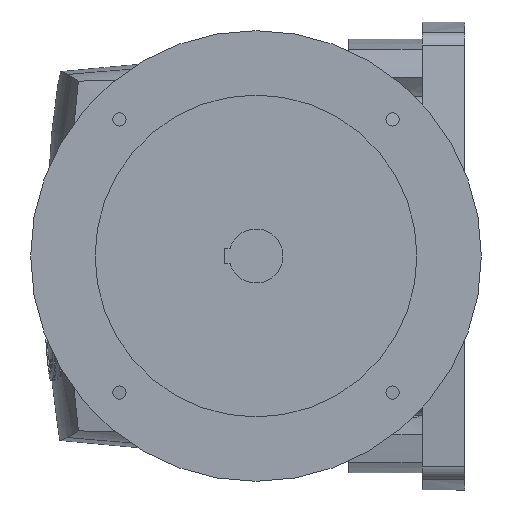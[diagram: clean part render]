
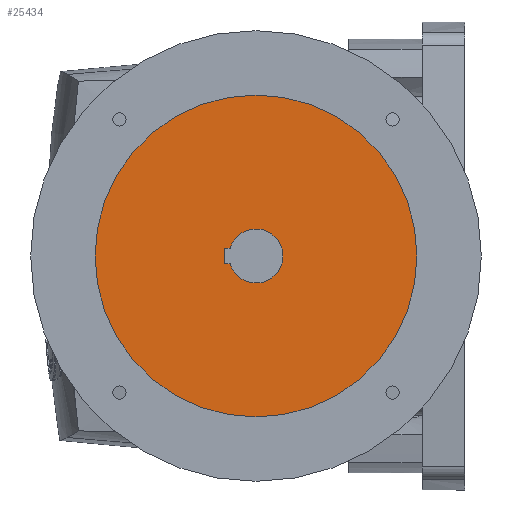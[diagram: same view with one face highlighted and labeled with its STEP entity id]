
A CAD part, left-side view. The second image highlights one B-rep face of the part: STEP entity #25434.
In plain terms, the highlighted planar face has unit normal (-1, 0, 0).
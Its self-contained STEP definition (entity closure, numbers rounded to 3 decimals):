
#6787=CARTESIAN_POINT('',(-232.,162.,0.));
#6788=DIRECTION('',(-1.,0.,0.));
#6789=DIRECTION('',(0.,1.,0.));
#6790=AXIS2_PLACEMENT_3D('',#6787,#6788,#6789);
#6800=CARTESIAN_POINT('',(-232.,162.,0.));
#6801=DIRECTION('',(1.,0.,0.));
#6802=DIRECTION('',(0.,1.,0.));
#6803=AXIS2_PLACEMENT_3D('',#6800,#6801,#6802);
#6805=DIRECTION('',(0.,1.,0.));
#6806=VECTOR('',#6805,4.175);
#6807=CARTESIAN_POINT('',(-232.,182.125,6.));
#6808=LINE('',#6807,#6806);
#6809=DIRECTION('',(0.,0.,-1.));
#6810=VECTOR('',#6809,12.);
#6811=CARTESIAN_POINT('',(-232.,186.3,6.));
#6812=LINE('',#6811,#6810);
#6813=DIRECTION('',(0.,-1.,0.));
#6814=VECTOR('',#6813,4.175);
#6815=CARTESIAN_POINT('',(-232.,186.3,-6.));
#6816=LINE('',#6815,#6814);
#6817=CARTESIAN_POINT('',(-232.,162.,0.));
#6818=DIRECTION('',(-1.,0.,0.));
#6819=DIRECTION('',(0.,0.958,-0.286));
#6820=AXIS2_PLACEMENT_3D('',#6817,#6818,#6819);
#8313=CARTESIAN_POINT('',(-232.,287.,0.));
#8315=VERTEX_POINT('',#8313);
#8321=CARTESIAN_POINT('',(-232.,37.,0.));
#8323=VERTEX_POINT('',#8321);
#8353=CARTESIAN_POINT('',(-232.,182.125,6.));
#8354=CARTESIAN_POINT('',(-232.,186.3,6.));
#8355=VERTEX_POINT('',#8353);
#8356=VERTEX_POINT('',#8354);
#8357=CARTESIAN_POINT('',(-232.,186.3,-6.));
#8358=VERTEX_POINT('',#8357);
#8359=CARTESIAN_POINT('',(-232.,182.125,-6.));
#8360=VERTEX_POINT('',#8359);
#25415=CARTESIAN_POINT('',(-232.,162.,0.));
#25416=DIRECTION('',(-1.,0.,0.));
#25417=DIRECTION('',(0.,-1.,0.));
#25418=AXIS2_PLACEMENT_3D('',#25415,#25416,#25417);
#25419=PLANE('',#25418);
#25420=ORIENTED_EDGE('',*,*,#25410,.T.);
#25421=ORIENTED_EDGE('',*,*,#25394,.F.);
#25422=EDGE_LOOP('',(#25420,#25421));
#25423=FACE_OUTER_BOUND('',#25422,.F.);
#25425=ORIENTED_EDGE('',*,*,#25424,.T.);
#25427=ORIENTED_EDGE('',*,*,#25426,.T.);
#25429=ORIENTED_EDGE('',*,*,#25428,.T.);
#25431=ORIENTED_EDGE('',*,*,#25430,.T.);
#25432=EDGE_LOOP('',(#25425,#25427,#25429,#25431));
#25433=FACE_BOUND('',#25432,.F.);
#25434=ADVANCED_FACE('',(#25423,#25433),#25419,.T.);
#6791=CIRCLE('',#6790,125.);
#6804=CIRCLE('',#6803,125.);
#6821=CIRCLE('',#6820,21.);
#25394=EDGE_CURVE('',#8315,#8323,#6791,.T.);
#25410=EDGE_CURVE('',#8315,#8323,#6804,.T.);
#25424=EDGE_CURVE('',#8355,#8356,#6808,.T.);
#25426=EDGE_CURVE('',#8356,#8358,#6812,.T.);
#25428=EDGE_CURVE('',#8358,#8360,#6816,.T.);
#25430=EDGE_CURVE('',#8360,#8355,#6821,.T.);
